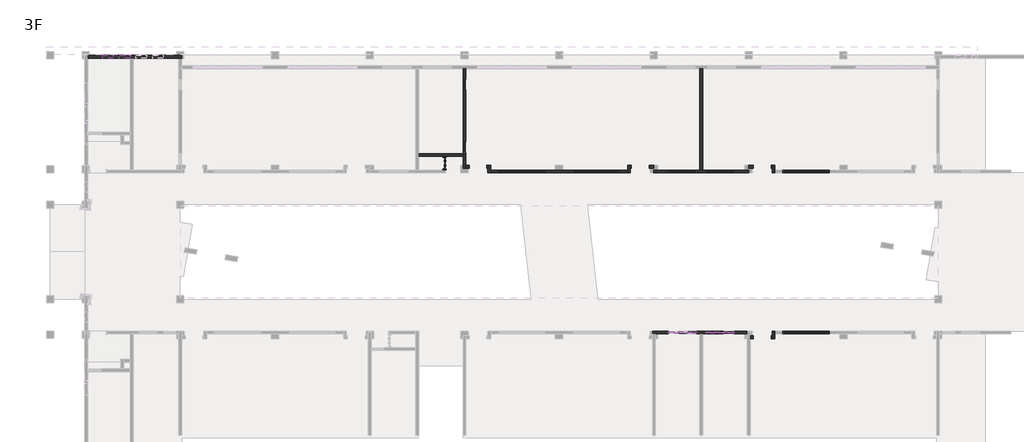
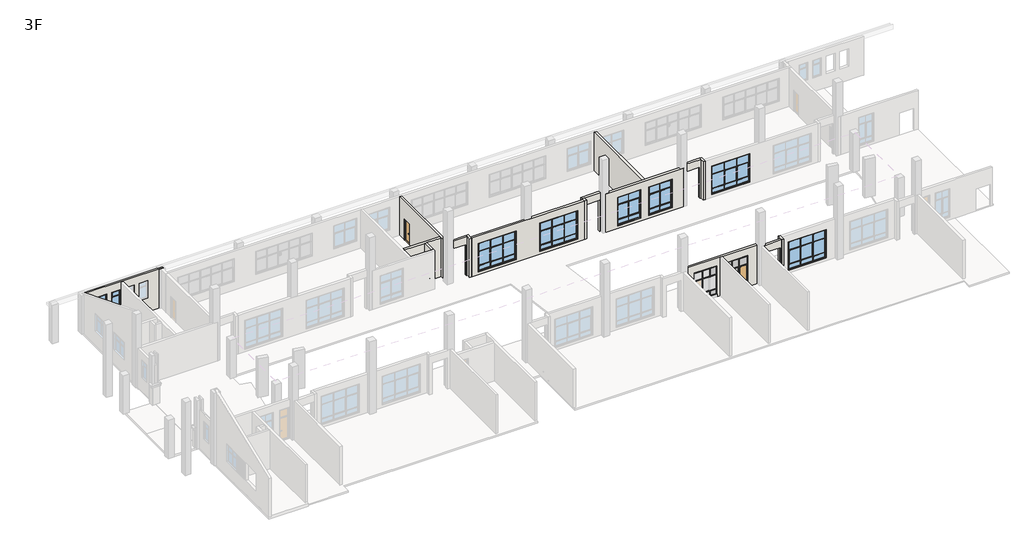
# One storey, part 4 of 9: 43 members, 16 walls, 9 plates, 8 windows, 4 doors.
"""IFC4 building model written with IfcOpenShell, lengths in millimetres."""

from ifc_helpers import new_model, si_unit, frame, origin, place, context, project, spatial, polyline, outline, extrude, faceted_brep, transform, mapped, element, save
from components import door_98f1c622, door_014e05d9, m4_m4_ba408c81, m4_m4_3ad702a5, member_bb6b3e5c, member_3251d295, member_9c26cac3, member_f9d68b3c, member_c7345f5c, member_ef2f5788, member_68d13e3f, member_a211941a, member_adcc9943, member_f478ca5a, member_964d2677, member_b8dbbb25, member_8a69f4a4, member_c89433b5, member_21953a3b, member_4507a15d, member_d4bc27cc, member_fbd0fd80, member_b6ae775c, plate_457c613e, plate_cc9028c0, plate_1c3dccf0, plate_5ac164bc, plate_3a849303, plate_0b4a2fd4, lc2_lc2_631be3da, lc5_lc5_223d64ff, lc5_lc5_9ec79463, lc8_lc8_f37dbe4c

model = new_model("IFC4")

# Units and contexts
model_context = context("Model", 3, world=origin())
ifc_project = project(units=[si_unit("LENGTHUNIT", "METRE", prefix="MILLI")], contexts=[model_context])

# Site, building, storey
site = spatial("IfcSite", under=ifc_project)
building = spatial("IfcBuilding", under=site)
storey = spatial("IfcBuildingStorey", under=building, Name="3F", Elevation=8400.0)

# Doors
placement = place(None, origin())
door_shape = door_98f1c622(model_context)
element("IfcDoor", 1, ObjectType="门嵌板_单开门2 : 门嵌板_单开门2", at=placement, inside=storey, context=model_context, shape_type="MappedRepresentation", body=[
    mapped(door_shape, transform((57300.0000032, 9800.304536, 8500.0), x_axis=(1.0, 0.0, 0.0), y_axis=(0.0, 1.0, 0.0), z_axis=(0.0, 0.0, 1.0))),
])
door_2_shape = door_014e05d9(model_context)
element("IfcDoor", 2, ObjectType="FM(丙）1 : FM(丙）1", at=placement, inside=storey, context=model_context, shape_type="MappedRepresentation", body=[
    mapped(door_2_shape, transform((33300.0000031, 24100.0, 8400.0), x_axis=(0.0, -1.0, 0.0), y_axis=(1.0, 0.0, 0.0), z_axis=(0.0, 0.0, 1.0))),
])
m4_m4_shape = m4_m4_ba408c81(model_context)
element("IfcDoor", 3, ObjectType="M4 : M4", at=placement, inside=storey, context=model_context, shape_type="MappedRepresentation", body=[
    mapped(m4_m4_shape, transform((35000.0, 30750.0, 8400.0), x_axis=(0.0, -1.0, 0.0), y_axis=(1.0, 0.0, 0.0), z_axis=(0.0, 0.0, 1.0))),
])
m4_m4_2_shape = m4_m4_3ad702a5(model_context)
element("IfcDoor", 4, ObjectType="M4 : M4", at=placement, inside=storey, context=model_context, shape_type="MappedRepresentation", body=[
    mapped(m4_m4_2_shape, transform((35000.0, 25449.6954656, 8400.0), x_axis=(0.0, 1.0, 0.0), y_axis=(-1.0, 0.0, 0.0), z_axis=(0.0, 0.0, 1.0))),
])

# Members
member_shape = member_bb6b3e5c(model_context)
element("IfcMember", 5, ObjectType="矩形竖梃 : 教学楼 – 矩形竖梃 – 100x150mm", at=placement, inside=storey, context=model_context, shape_type="MappedRepresentation", body=[
    mapped(member_shape, transform((54599.9999997, 9800.304536, 11800.0), x_axis=(0.0, 0.0, 1.0), y_axis=(0.0, -1.0, 0.0), z_axis=(1.0, 0.0, 0.0))),
])
member_2_shape = member_3251d295(model_context)
element("IfcMember", 6, ObjectType="矩形竖梃 : 教学楼 – 矩形竖梃 – 50x150mm", at=placement, inside=storey, context=model_context, shape_type="MappedRepresentation", body=[
    mapped(member_2_shape, transform((53124.9999993, 9800.304536, 8500.0), x_axis=(1.0, 0.0, 0.0), y_axis=(0.0, -1.0, 0.0), z_axis=(0.0, 0.0, -1.0))),
])
member_3_shape = member_9c26cac3(model_context)
element("IfcMember", 7, ObjectType="矩形竖梃 : 教学楼 – 矩形竖梃 – 50x150mm", at=placement, inside=storey, context=model_context, shape_type="MappedRepresentation", body=[
    mapped(member_3_shape, transform((53124.9999993, 9800.304536, 10825.0), x_axis=(0.0, 0.0, 1.0), y_axis=(0.0, -1.0, 0.0), z_axis=(1.0, 0.0, 0.0))),
])
member_4_shape = member_f9d68b3c(model_context)
element("IfcMember", 8, ObjectType="矩形竖梃 : 教学楼 – 矩形竖梃 – 50x150mm", at=placement, inside=storey, context=model_context, shape_type="MappedRepresentation", body=[
    mapped(member_4_shape, transform((53874.9999997, 9800.304536, 10825.0), x_axis=(0.0, 0.0, 1.0), y_axis=(0.0, -1.0, 0.0), z_axis=(1.0, 0.0, 0.0))),
])
member_5_shape = member_c7345f5c(model_context)
element("IfcMember", 9, ObjectType="矩形竖梃 : 教学楼 – 矩形竖梃 – 50x150mm", at=placement, inside=storey, context=model_context, shape_type="MappedRepresentation", body=[
    mapped(member_5_shape, transform((54499.9999997, 9800.304536, 10825.0), x_axis=(0.0, 0.0, 1.0), y_axis=(0.0, -1.0, 0.0), z_axis=(1.0, 0.0, 0.0))),
])
element("IfcMember", 10, ObjectType="矩形竖梃 : 教学楼 – 矩形竖梃 – 50x150mm", at=placement, inside=storey, context=model_context, shape_type="MappedRepresentation", body=[
    mapped(member_5_shape, transform((54499.9999997, 9800.304536, 9275.0), x_axis=(0.0, 0.0, 1.0), y_axis=(0.0, -1.0, 0.0), z_axis=(1.0, 0.0, 0.0))),
])
element("IfcMember", 11, ObjectType="矩形竖梃 : 教学楼 – 矩形竖梃 – 50x150mm", at=placement, inside=storey, context=model_context, shape_type="MappedRepresentation", body=[
    mapped(member_5_shape, transform((54499.9999997, 9800.304536, 8700.0), x_axis=(0.0, 0.0, 1.0), y_axis=(0.0, -1.0, 0.0), z_axis=(1.0, 0.0, 0.0))),
])
member_6_shape = member_ef2f5788(model_context)
element("IfcMember", 12, ObjectType="矩形竖梃 : 教学楼 – 矩形竖梃 – 50x150mm", at=placement, inside=storey, context=model_context, shape_type="MappedRepresentation", body=[
    mapped(member_6_shape, transform((53874.9999997, 9800.304536, 9275.0), x_axis=(0.0, 0.0, 1.0), y_axis=(0.0, -1.0, 0.0), z_axis=(1.0, 0.0, 0.0))),
])
member_7_shape = member_68d13e3f(model_context)
element("IfcMember", 13, ObjectType="矩形竖梃 : 教学楼 – 矩形竖梃 – 50x150mm", at=placement, inside=storey, context=model_context, shape_type="MappedRepresentation", body=[
    mapped(member_7_shape, transform((53874.9999997, 9800.304536, 8700.0), x_axis=(0.0, 0.0, 1.0), y_axis=(0.0, -1.0, 0.0), z_axis=(1.0, 0.0, 0.0))),
])
member_8_shape = member_a211941a(model_context)
element("IfcMember", 14, ObjectType="矩形竖梃 : 教学楼 – 矩形竖梃 – 100x150mm", at=placement, inside=storey, context=model_context, shape_type="MappedRepresentation", body=[
    mapped(member_8_shape, transform((53124.9999993, 9800.304536, 11800.0), x_axis=(0.0, 0.0, 1.0), y_axis=(0.0, -1.0, 0.0), z_axis=(1.0, 0.0, 0.0))),
])
member_9_shape = member_adcc9943(model_context)
element("IfcMember", 15, ObjectType="矩形竖梃 : 教学楼 – 矩形竖梃 – 100x150mm", at=placement, inside=storey, context=model_context, shape_type="MappedRepresentation", body=[
    mapped(member_9_shape, transform((53874.9999997, 9800.304536, 11800.0), x_axis=(0.0, 0.0, 1.0), y_axis=(0.0, -1.0, 0.0), z_axis=(1.0, 0.0, 0.0))),
])
member_10_shape = member_f478ca5a(model_context)
element("IfcMember", 16, ObjectType="矩形竖梃 : 教学楼 – 矩形竖梃 – 50x150mm", at=placement, inside=storey, context=model_context, shape_type="MappedRepresentation", body=[
    mapped(member_10_shape, transform((53124.9999993, 9800.304536, 10850.0), x_axis=(1.0, 0.0, 0.0), y_axis=(0.0, -1.0, 0.0), z_axis=(0.0, 0.0, -1.0))),
])
element("IfcMember", 17, ObjectType="矩形竖梃 : 教学楼 – 矩形竖梃 – 50x150mm", at=placement, inside=storey, context=model_context, shape_type="MappedRepresentation", body=[
    mapped(member_10_shape, transform((53874.9999997, 9800.304536, 10850.0), x_axis=(1.0, 0.0, 0.0), y_axis=(0.0, -1.0, 0.0), z_axis=(0.0, 0.0, -1.0))),
])
member_11_shape = member_964d2677(model_context)
element("IfcMember", 18, ObjectType="矩形竖梃 : 教学楼 – 矩形竖梃 – 50x150mm", at=placement, inside=storey, context=model_context, shape_type="MappedRepresentation", body=[
    mapped(member_11_shape, transform((53124.9999993, 9800.304536, 9300.0), x_axis=(1.0, 0.0, 0.0), y_axis=(0.0, -1.0, 0.0), z_axis=(0.0, 0.0, -1.0))),
])
member_12_shape = member_b8dbbb25(model_context)
element("IfcMember", 19, ObjectType="矩形竖梃 : 教学楼 – 矩形竖梃 – 50x150mm", at=placement, inside=storey, context=model_context, shape_type="MappedRepresentation", body=[
    mapped(member_12_shape, transform((53124.9999993, 9800.304536, 8700.0), x_axis=(1.0, 0.0, 0.0), y_axis=(0.0, -1.0, 0.0), z_axis=(0.0, 0.0, -1.0))),
])
member_13_shape = member_8a69f4a4(model_context)
element("IfcMember", 20, ObjectType="矩形竖梃 : 教学楼 – 矩形竖梃 – 50x150mm", at=placement, inside=storey, context=model_context, shape_type="MappedRepresentation", body=[
    mapped(member_13_shape, transform((53874.9999997, 9800.304536, 8725.0), x_axis=(1.0, 0.0, 0.0), y_axis=(0.0, -1.0, 0.0), z_axis=(0.0, 0.0, -1.0))),
])
member_14_shape = member_c89433b5(model_context)
element("IfcMember", 21, ObjectType="矩形竖梃 : 教学楼 – 矩形竖梃 – 100x150mm", at=placement, inside=storey, context=model_context, shape_type="MappedRepresentation", body=[
    mapped(member_14_shape, transform((54599.9999997, 9800.304536, 10825.0), x_axis=(1.0, 0.0, 0.0), y_axis=(0.0, -1.0, 0.0), z_axis=(0.0, 0.0, -1.0))),
])
member_15_shape = member_21953a3b(model_context)
element("IfcMember", 22, ObjectType="矩形竖梃 : 教学楼 – 矩形竖梃 – 100x150mm", at=placement, inside=storey, context=model_context, shape_type="MappedRepresentation", body=[
    mapped(member_15_shape, transform((54599.9999997, 9800.304536, 9275.0), x_axis=(1.0, 0.0, 0.0), y_axis=(0.0, -1.0, 0.0), z_axis=(0.0, 0.0, -1.0))),
])
member_16_shape = member_4507a15d(model_context)
element("IfcMember", 23, ObjectType="矩形竖梃 : 教学楼 – 矩形竖梃 – 100x150mm", at=placement, inside=storey, context=model_context, shape_type="MappedRepresentation", body=[
    mapped(member_16_shape, transform((54599.9999997, 9800.304536, 8675.0), x_axis=(1.0, 0.0, 0.0), y_axis=(0.0, -1.0, 0.0), z_axis=(0.0, 0.0, -1.0))),
])
element("IfcMember", 24, ObjectType="矩形竖梃 : 教学楼 – 矩形竖梃 – 100x150mm", at=placement, inside=storey, context=model_context, shape_type="MappedRepresentation", body=[
    mapped(member_shape, transform((55400.0000029, 9800.304536, 11800.0), x_axis=(0.0, 0.0, 1.0), y_axis=(0.0, 1.0, 0.0), z_axis=(-1.0, 0.0, 0.0))),
])
member_17_shape = member_d4bc27cc(model_context)
element("IfcMember", 25, ObjectType="矩形竖梃 : 教学楼 – 矩形竖梃 – 100x150mm", at=placement, inside=storey, context=model_context, shape_type="MappedRepresentation", body=[
    mapped(member_17_shape, transform((57800.0000032, 9800.304536, 8400.0), x_axis=(0.0, 0.0, -1.0), y_axis=(0.0, 1.0, 0.0), z_axis=(1.0, 0.0, 0.0))),
])
element("IfcMember", 26, ObjectType="矩形竖梃 : 教学楼 – 矩形竖梃 – 50x150mm", at=placement, inside=storey, context=model_context, shape_type="MappedRepresentation", body=[
    mapped(member_2_shape, transform((56875.0000032, 9800.304536, 8500.0), x_axis=(-1.0, 0.0, 0.0), y_axis=(0.0, 1.0, 0.0), z_axis=(0.0, 0.0, -1.0))),
])
element("IfcMember", 27, ObjectType="矩形竖梃 : 教学楼 – 矩形竖梃 – 50x150mm", at=placement, inside=storey, context=model_context, shape_type="MappedRepresentation", body=[
    mapped(member_3_shape, transform((56875.0000032, 9800.304536, 10825.0), x_axis=(0.0, 0.0, 1.0), y_axis=(0.0, 1.0, 0.0), z_axis=(-1.0, 0.0, 0.0))),
])
element("IfcMember", 28, ObjectType="矩形竖梃 : 教学楼 – 矩形竖梃 – 50x150mm", at=placement, inside=storey, context=model_context, shape_type="MappedRepresentation", body=[
    mapped(member_4_shape, transform((56125.0000029, 9800.304536, 10825.0), x_axis=(0.0, 0.0, 1.0), y_axis=(0.0, 1.0, 0.0), z_axis=(-1.0, 0.0, 0.0))),
])
element("IfcMember", 29, ObjectType="矩形竖梃 : 教学楼 – 矩形竖梃 – 50x150mm", at=placement, inside=storey, context=model_context, shape_type="MappedRepresentation", body=[
    mapped(member_5_shape, transform((55500.0000029, 9800.304536, 10825.0), x_axis=(0.0, 0.0, 1.0), y_axis=(0.0, 1.0, 0.0), z_axis=(-1.0, 0.0, 0.0))),
])
element("IfcMember", 30, ObjectType="矩形竖梃 : 教学楼 – 矩形竖梃 – 50x150mm", at=placement, inside=storey, context=model_context, shape_type="MappedRepresentation", body=[
    mapped(member_5_shape, transform((55500.0000029, 9800.304536, 9275.0), x_axis=(0.0, 0.0, 1.0), y_axis=(0.0, 1.0, 0.0), z_axis=(-1.0, 0.0, 0.0))),
])
element("IfcMember", 31, ObjectType="矩形竖梃 : 教学楼 – 矩形竖梃 – 50x150mm", at=placement, inside=storey, context=model_context, shape_type="MappedRepresentation", body=[
    mapped(member_5_shape, transform((55500.0000029, 9800.304536, 8700.0), x_axis=(0.0, 0.0, 1.0), y_axis=(0.0, 1.0, 0.0), z_axis=(-1.0, 0.0, 0.0))),
])
element("IfcMember", 32, ObjectType="矩形竖梃 : 教学楼 – 矩形竖梃 – 50x150mm", at=placement, inside=storey, context=model_context, shape_type="MappedRepresentation", body=[
    mapped(member_6_shape, transform((56125.0000029, 9800.304536, 9275.0), x_axis=(0.0, 0.0, 1.0), y_axis=(0.0, 1.0, 0.0), z_axis=(-1.0, 0.0, 0.0))),
])
element("IfcMember", 33, ObjectType="矩形竖梃 : 教学楼 – 矩形竖梃 – 50x150mm", at=placement, inside=storey, context=model_context, shape_type="MappedRepresentation", body=[
    mapped(member_7_shape, transform((56125.0000029, 9800.304536, 8700.0), x_axis=(0.0, 0.0, 1.0), y_axis=(0.0, 1.0, 0.0), z_axis=(-1.0, 0.0, 0.0))),
])
element("IfcMember", 34, ObjectType="矩形竖梃 : 教学楼 – 矩形竖梃 – 100x150mm", at=placement, inside=storey, context=model_context, shape_type="MappedRepresentation", body=[
    mapped(member_8_shape, transform((56875.0000032, 9800.304536, 11800.0), x_axis=(0.0, 0.0, 1.0), y_axis=(0.0, 1.0, 0.0), z_axis=(-1.0, 0.0, 0.0))),
])
element("IfcMember", 35, ObjectType="矩形竖梃 : 教学楼 – 矩形竖梃 – 100x150mm", at=placement, inside=storey, context=model_context, shape_type="MappedRepresentation", body=[
    mapped(member_9_shape, transform((56125.0000029, 9800.304536, 11800.0), x_axis=(0.0, 0.0, 1.0), y_axis=(0.0, 1.0, 0.0), z_axis=(-1.0, 0.0, 0.0))),
])
element("IfcMember", 36, ObjectType="矩形竖梃 : 教学楼 – 矩形竖梃 – 50x150mm", at=placement, inside=storey, context=model_context, shape_type="MappedRepresentation", body=[
    mapped(member_10_shape, transform((56875.0000032, 9800.304536, 10850.0), x_axis=(-1.0, 0.0, 0.0), y_axis=(0.0, 1.0, 0.0), z_axis=(0.0, 0.0, -1.0))),
])
element("IfcMember", 37, ObjectType="矩形竖梃 : 教学楼 – 矩形竖梃 – 50x150mm", at=placement, inside=storey, context=model_context, shape_type="MappedRepresentation", body=[
    mapped(member_10_shape, transform((56125.0000029, 9800.304536, 10850.0), x_axis=(-1.0, 0.0, 0.0), y_axis=(0.0, 1.0, 0.0), z_axis=(0.0, 0.0, -1.0))),
])
element("IfcMember", 38, ObjectType="矩形竖梃 : 教学楼 – 矩形竖梃 – 50x150mm", at=placement, inside=storey, context=model_context, shape_type="MappedRepresentation", body=[
    mapped(member_11_shape, transform((56875.0000032, 9800.304536, 9300.0), x_axis=(-1.0, 0.0, 0.0), y_axis=(0.0, 1.0, 0.0), z_axis=(0.0, 0.0, -1.0))),
])
element("IfcMember", 39, ObjectType="矩形竖梃 : 教学楼 – 矩形竖梃 – 50x150mm", at=placement, inside=storey, context=model_context, shape_type="MappedRepresentation", body=[
    mapped(member_12_shape, transform((56875.0000032, 9800.304536, 8700.0), x_axis=(-1.0, 0.0, 0.0), y_axis=(0.0, 1.0, 0.0), z_axis=(0.0, 0.0, -1.0))),
])
element("IfcMember", 40, ObjectType="矩形竖梃 : 教学楼 – 矩形竖梃 – 50x150mm", at=placement, inside=storey, context=model_context, shape_type="MappedRepresentation", body=[
    mapped(member_13_shape, transform((56125.0000029, 9800.304536, 8725.0), x_axis=(-1.0, 0.0, 0.0), y_axis=(0.0, 1.0, 0.0), z_axis=(0.0, 0.0, -1.0))),
])
element("IfcMember", 41, ObjectType="矩形竖梃 : 教学楼 – 矩形竖梃 – 100x150mm", at=placement, inside=storey, context=model_context, shape_type="MappedRepresentation", body=[
    mapped(member_14_shape, transform((57800.0000032, 9800.304536, 11700.0), x_axis=(1.0, 0.0, 0.0), y_axis=(0.0, 1.0, 0.0), z_axis=(0.0, 0.0, 1.0))),
])
element("IfcMember", 42, ObjectType="矩形竖梃 : 教学楼 – 矩形竖梃 – 100x150mm", at=placement, inside=storey, context=model_context, shape_type="MappedRepresentation", body=[
    mapped(member_14_shape, transform((55400.0000029, 9800.304536, 10825.0), x_axis=(-1.0, 0.0, 0.0), y_axis=(0.0, 1.0, 0.0), z_axis=(0.0, 0.0, -1.0))),
])
element("IfcMember", 43, ObjectType="矩形竖梃 : 教学楼 – 矩形竖梃 – 100x150mm", at=placement, inside=storey, context=model_context, shape_type="MappedRepresentation", body=[
    mapped(member_15_shape, transform((55400.0000029, 9800.304536, 9275.0), x_axis=(-1.0, 0.0, 0.0), y_axis=(0.0, 1.0, 0.0), z_axis=(0.0, 0.0, -1.0))),
])
element("IfcMember", 44, ObjectType="矩形竖梃 : 教学楼 – 矩形竖梃 – 100x150mm", at=placement, inside=storey, context=model_context, shape_type="MappedRepresentation", body=[
    mapped(member_16_shape, transform((55400.0000029, 9800.304536, 8675.0), x_axis=(-1.0, 0.0, 0.0), y_axis=(0.0, 1.0, 0.0), z_axis=(0.0, 0.0, -1.0))),
])
element("IfcMember", 45, ObjectType="矩形竖梃 : 教学楼 – 矩形竖梃 – 100x150mm", at=placement, inside=storey, context=model_context, shape_type="MappedRepresentation", body=[
    mapped(member_15_shape, transform((57800.0000032, 9800.304536, 10825.0), x_axis=(1.0, 0.0, 0.0), y_axis=(0.0, 1.0, 0.0), z_axis=(0.0, 0.0, 1.0))),
])
member_18_shape = member_fbd0fd80(model_context)
element("IfcMember", 46, ObjectType="矩形竖梃 : 教学楼 – 矩形竖梃 – 100x150mm", at=placement, inside=storey, context=model_context, shape_type="MappedRepresentation", body=[
    mapped(member_18_shape, transform((57800.0000032, 9800.304536, 9275.0), x_axis=(1.0, 0.0, 0.0), y_axis=(0.0, 1.0, 0.0), z_axis=(0.0, 0.0, 1.0))),
])
member_19_shape = member_b6ae775c(model_context)
element("IfcMember", 47, ObjectType="矩形竖梃 : 教学楼 – 矩形竖梃 – 100x150mm", at=placement, inside=storey, context=model_context, shape_type="MappedRepresentation", body=[
    mapped(member_19_shape, transform((57800.0000032, 9800.304536, 8700.0), x_axis=(1.0, 0.0, 0.0), y_axis=(0.0, 1.0, 0.0), z_axis=(0.0, 0.0, 1.0))),
])

# Plates
element("IfcPlate", 48, ObjectType="教学楼 – 涂料内墙 – 200mm", at=placement, inside=storey, context=model_context, shape_type="SweptSolid", body=[
    extrude(outline(polyline([(55400.0000029, 9917.304536), (56850.0000032, 9917.304536), (56850.0000032, 9683.304536), (55400.0000029, 9683.304536), (55400.0000029, 9917.304536)])), frame((0.0, 0.0, 8400.0), z_axis=(0.0, 0.0, 1.0), x_axis=(1.0, 0.0, 0.0)), (0.0, 0.0, 1.0), 275.0),
])
plate_shape = plate_457c613e(model_context)
element("IfcPlate", 49, ObjectType="系统嵌板 : 玻璃", at=placement, inside=storey, context=model_context, shape_type="MappedRepresentation", body=[
    mapped(plate_shape, transform((57300.0000032, 9800.304536, 10850.0), x_axis=(-1.0, 0.0, 0.0), y_axis=(0.0, -1.0, 0.0), z_axis=(0.0, 0.0, 1.0))),
])
plate_2_shape = plate_cc9028c0(model_context)
element("IfcPlate", 50, ObjectType="系统嵌板 : 玻璃", at=placement, inside=storey, context=model_context, shape_type="MappedRepresentation", body=[
    mapped(plate_2_shape, transform((56500.000003, 9800.304536, 10850.0), x_axis=(-1.0, 0.0, 0.0), y_axis=(0.0, -1.0, 0.0), z_axis=(0.0, 0.0, 1.0))),
])
plate_3_shape = plate_1c3dccf0(model_context)
element("IfcPlate", 51, ObjectType="系统嵌板 : 玻璃", at=placement, inside=storey, context=model_context, shape_type="MappedRepresentation", body=[
    mapped(plate_3_shape, transform((55800.0000029, 9800.304536, 10850.0), x_axis=(-1.0, 0.0, 0.0), y_axis=(0.0, -1.0, 0.0), z_axis=(0.0, 0.0, 1.0))),
])
plate_4_shape = plate_5ac164bc(model_context)
element("IfcPlate", 52, ObjectType="教学楼 - 窗嵌板：双扇推拉窗 : 教学楼 - 窗嵌板：双扇推拉窗", at=placement, inside=storey, context=model_context, shape_type="MappedRepresentation", body=[
    mapped(plate_4_shape, transform((56175.000003, 9800.304536, 9300.0), x_axis=(-1.0, 0.0, 0.0), y_axis=(0.0, -1.0, 0.0), z_axis=(0.0, 0.0, 1.0))),
])
plate_5_shape = plate_3a849303(model_context)
element("IfcPlate", 53, ObjectType="系统嵌板 : 玻璃", at=placement, inside=storey, context=model_context, shape_type="MappedRepresentation", body=[
    mapped(plate_5_shape, transform((56500.000003, 9800.304536, 8725.0), x_axis=(-1.0, 0.0, 0.0), y_axis=(0.0, -1.0, 0.0), z_axis=(0.0, 0.0, 1.0))),
])
plate_6_shape = plate_0b4a2fd4(model_context)
element("IfcPlate", 54, ObjectType="系统嵌板 : 玻璃", at=placement, inside=storey, context=model_context, shape_type="MappedRepresentation", body=[
    mapped(plate_6_shape, transform((55800.0000029, 9800.304536, 8725.0), x_axis=(-1.0, 0.0, 0.0), y_axis=(0.0, -1.0, 0.0), z_axis=(0.0, 0.0, 1.0))),
])
element("IfcPlate", 55, ObjectType="系统嵌板 : 玻璃", at=placement, inside=storey, context=model_context, shape_type="MappedRepresentation", body=[
    mapped(plate_3_shape, transform((54199.9999997, 9800.304536, 10850.0), x_axis=(1.0, 0.0, 0.0), y_axis=(0.0, 1.0, 0.0), z_axis=(0.0, 0.0, 1.0))),
])
element("IfcPlate", 56, ObjectType="系统嵌板 : 玻璃", at=placement, inside=storey, context=model_context, shape_type="MappedRepresentation", body=[
    mapped(plate_6_shape, transform((54199.9999997, 9800.304536, 8725.0), x_axis=(1.0, 0.0, 0.0), y_axis=(0.0, 1.0, 0.0), z_axis=(0.0, 0.0, 1.0))),
])

# Walls
element("IfcWall", 57, ObjectType="教学楼 – 饰面砖外墙 – 200mm", at=placement, inside=storey, context=model_context, shape_type="Brep", body=[
    faceted_brep([(3167.0000002, 32982.6954639, 8400.0), (3300.0, 32982.6954639, 8400.0), (6783.0000003, 32982.6954639, 8400.0), (7017.0000003, 32982.6954639, 8400.0), (10700.0, 32982.6954639, 8400.0), (10883.0, 32982.6954639, 8400.0), (11133.0, 32982.6954639, 8400.0), (11133.0, 32982.6954639, 12600.0), (11133.0, 32982.6954639, 12686.8728096), (3167.0000002, 32982.6954639, 12686.8728096), (3167.0000002, 32982.6954639, 12600.0), (8649.9999969, 32982.6954639, 9900.0), (8649.9999969, 32982.6954639, 11800.0), (9549.9999969, 32982.6954639, 11800.0), (9549.9999969, 32982.6954639, 9900.0), (7249.9999993, 32982.6954639, 9900.0), (7249.9999993, 32982.6954639, 11800.0), (8149.9999993, 32982.6954639, 11800.0), (8149.9999993, 32982.6954639, 9900.0), (5849.9999969, 32982.6954639, 9900.0), (5849.9999969, 32982.6954639, 11800.0), (6749.9999969, 32982.6954639, 11800.0), (6749.9999969, 32982.6954639, 9900.0), (4450.0000018, 32982.6954639, 9900.0), (4450.0000018, 32982.6954639, 11800.0), (5350.0000018, 32982.6954639, 11800.0), (5350.0000018, 32982.6954639, 9900.0), (3167.0000002, 33232.6954639, 8400.0), (3167.0000002, 33232.6954639, 12586.8799436), (3300.0, 33232.6954639, 12586.8799436), (10700.0, 33232.6954639, 12586.8799436), (11133.0, 33232.6954639, 12586.8799436), (11133.0, 33232.6954639, 8400.0), (10700.0, 33232.6954639, 8400.0), (3300.0, 33232.6954639, 8400.0), (8649.9999969, 33232.6954639, 9900.0), (9549.9999969, 33232.6954639, 9900.0), (9549.9999969, 33232.6954639, 11800.0), (8649.9999969, 33232.6954639, 11800.0), (7249.9999993, 33232.6954639, 9900.0), (8149.9999993, 33232.6954639, 9900.0), (8149.9999993, 33232.6954639, 11800.0), (7249.9999993, 33232.6954639, 11800.0), (5849.9999969, 33232.6954639, 9900.0), (6749.9999969, 33232.6954639, 9900.0), (6749.9999969, 33232.6954639, 11800.0), (5849.9999969, 33232.6954639, 11800.0), (4450.0000018, 33232.6954639, 9900.0), (5350.0000018, 33232.6954639, 9900.0), (5350.0000018, 33232.6954639, 11800.0), (4450.0000018, 33232.6954639, 11800.0), (11133.0, 33199.8929826, 12600.0)], [[[0, 1, 2, 3, 4, 5, 6, 7, 8, 9, 10], [11, 12, 13, 14], [15, 16, 17, 18], [19, 20, 21, 22], [23, 24, 25, 26]], [[27, 28, 29, 30, 31, 32, 33, 34], [35, 36, 37, 38], [39, 40, 41, 42], [43, 44, 45, 46], [47, 48, 49, 50]], [[6, 5, 4, 3, 2, 1, 0, 27, 34, 33, 32]], [[0, 10, 9, 28, 27]], [[8, 7, 6, 32, 31, 51]], [[12, 11, 35, 38]], [[13, 12, 38, 37]], [[14, 13, 37, 36]], [[11, 14, 36, 35]], [[16, 15, 39, 42]], [[17, 16, 42, 41]], [[18, 17, 41, 40]], [[15, 18, 40, 39]], [[20, 19, 43, 46]], [[21, 20, 46, 45]], [[22, 21, 45, 44]], [[19, 22, 44, 43]], [[24, 23, 47, 50]], [[25, 24, 50, 49]], [[26, 25, 49, 48]], [[23, 26, 48, 47]], [[9, 8, 51, 31, 30, 29, 28]]]),
])
element("IfcWall", 58, ObjectType="教学楼 – 涂料内墙 – 200mm", at=placement, inside=storey, context=model_context, shape_type="Brep", body=[
    faceted_brep([(34883.0, 23682.7231012, 12600.0), (34883.0, 23917.0, 12600.0), (34883.0, 24682.6954638, 12600.0), (34883.0, 24916.6954638, 12600.0), (34883.0, 32075.0, 12600.0), (34883.0, 32075.0, 8400.0), (34883.0, 31200.0, 8400.0), (34883.0, 31200.0, 10700.0), (34883.0, 30300.0, 10700.0), (34883.0, 30300.0, 8400.0), (34883.0, 25899.6954656, 8400.0), (34883.0, 25899.6954656, 10700.0), (34883.0, 24999.6954656, 10700.0), (34883.0, 24999.6954656, 8400.0), (34883.0, 24916.6954638, 8400.0), (34883.0, 24682.6954638, 8400.0), (34883.0, 23917.0, 8400.0), (34883.0, 23682.7231012, 8400.0), (35117.0, 32075.0, 12600.0), (35117.0, 23917.0, 12600.0), (35117.0, 23916.7231012, 12600.0), (35117.0, 23682.7231012, 12600.0), (35117.0, 23682.7231012, 8400.0), (35117.0, 23916.7231012, 8400.0), (35117.0, 23917.0, 8400.0), (35117.0, 24999.6954656, 8400.0), (35117.0, 24999.6954656, 10700.0), (35117.0, 25899.6954656, 10700.0), (35117.0, 25899.6954656, 8400.0), (35117.0, 30300.0, 8400.0), (35117.0, 30300.0, 10700.0), (35117.0, 31200.0, 10700.0), (35117.0, 31200.0, 8400.0), (35117.0, 32075.0, 8400.0)], [[[0, 1, 2, 3, 4, 5, 6, 7, 8, 9, 10, 11, 12, 13, 14, 15, 16, 17]], [[18, 19, 20, 21, 22, 23, 24, 25, 26, 27, 28, 29, 30, 31, 32, 33]], [[5, 33, 32, 6]], [[22, 17, 16, 15, 14, 13, 25, 24, 23]], [[9, 29, 28, 10]], [[4, 3, 2, 1, 0, 21, 20, 19, 18]], [[0, 17, 22, 21]], [[5, 4, 18, 33]], [[8, 30, 29, 9]], [[30, 8, 7, 31]], [[31, 7, 6, 32]], [[27, 11, 10, 28]], [[11, 27, 26, 12]], [[12, 26, 25, 13]]]),
])
element("IfcWall", 59, ObjectType="教学楼 – 涂料内墙 – 200mm", at=placement, inside=storey, context=model_context, shape_type="SweptSolid", body=[
    extrude(outline(polyline([(54883.0000001, 23516.6954639), (54883.0000001, 32075.0), (55117.0000001, 32075.0), (55117.0000001, 23516.6954639), (54883.0000001, 23516.6954639)])), frame((0.0, 0.0, 8400.0), z_axis=(0.0, 0.0, 1.0), x_axis=(1.0, 0.0, 0.0)), (0.0, 0.0, 1.0), 4200.0),
])
element("IfcWall", 60, ObjectType="教学楼 – 涂料内墙 – 200mm", at=placement, inside=storey, context=model_context, shape_type="Brep", body=[
    faceted_brep([(61216.9999995, 23282.6954638, 8400.0), (61216.9999995, 23516.6954638, 8400.0), (61216.9999995, 23916.7231012, 8400.0), (61216.9999995, 23916.7231012, 12600.0), (61216.9999995, 23516.6954638, 12600.0), (61216.9999995, 23282.6954638, 12600.0), (60982.9999995, 23282.6954638, 8400.0), (60982.9999995, 23282.6954638, 12600.0), (60982.9999995, 23682.7231012, 12600.0), (60982.9999995, 23916.7231012, 12600.0), (60982.9999995, 23916.7231012, 8400.0), (60982.9999995, 23682.7231012, 8400.0)], [[[0, 1, 2, 3, 4, 5]], [[6, 7, 8, 9, 10, 11]], [[2, 1, 0, 6, 11, 10]], [[5, 4, 3, 9, 8, 7]], [[3, 2, 10, 9]], [[0, 5, 7, 6]]]),
])
element("IfcWall", 61, ObjectType="教学楼 – 涂料内墙 – 200mm", at=placement, inside=storey, context=model_context, shape_type="Brep", body=[
    faceted_brep([(59000.0, 23916.7231012, 8400.0), (59000.0, 23916.7231012, 12600.0), (59317.0, 23916.7231012, 12600.0), (60982.9999995, 23916.7231012, 12600.0), (60982.9999995, 23916.7231012, 8400.0), (60900.0000009, 23916.7231012, 8400.0), (60900.0000009, 23916.7231012, 11800.0), (59400.0000009, 23916.7231012, 11800.0), (59400.0000009, 23916.7231012, 8400.0), (59317.0, 23916.7231012, 8400.0), (59000.0, 23682.7231012, 12600.0), (59000.0, 23682.7231012, 8400.0), (59317.0, 23682.7231012, 8400.0), (59400.0000009, 23682.7231012, 8400.0), (59400.0000009, 23682.7231012, 11800.0), (60900.0000009, 23682.7231012, 11800.0), (60900.0000009, 23682.7231012, 8400.0), (60982.9999995, 23682.7231012, 8400.0), (60982.9999995, 23682.7231012, 12600.0), (59317.0, 23682.7231012, 12600.0)], [[[0, 1, 2, 3, 4, 5, 6, 7, 8, 9]], [[10, 11, 12, 13, 14, 15, 16, 17, 18, 19]], [[4, 17, 16, 5]], [[11, 0, 9, 8, 13, 12]], [[1, 0, 11, 10]], [[3, 2, 1, 10, 19, 18]], [[4, 3, 18, 17]], [[7, 14, 13, 8]], [[14, 7, 6, 15]], [[15, 6, 5, 16]]]),
])
element("IfcWall", 62, ObjectType="教学楼 – 涂料内墙 – 200mm", at=placement, inside=storey, context=model_context, shape_type="Brep", body=[
    faceted_brep([(51000.0, 23282.6954639, 8400.0), (59000.0, 23282.6954639, 8400.0), (59000.0, 23282.6954639, 12600.0), (51000.0, 23282.6954639, 12600.0), (54600.0000001, 23282.6954639, 8700.0), (52200.0000001, 23282.6954639, 8700.0), (52200.0000001, 23282.6954639, 11800.0), (54600.0000001, 23282.6954639, 11800.0), (57800.0000001, 23282.6954639, 8700.0), (55400.0000001, 23282.6954639, 8700.0), (55400.0000001, 23282.6954639, 11800.0), (57800.0000001, 23282.6954639, 11800.0), (51000.0, 23516.6954639, 8400.0), (51000.0, 23516.6954639, 12600.0), (51317.0, 23516.6954639, 12600.0), (54883.0000001, 23516.6954639, 12600.0), (55117.0000001, 23516.6954639, 12600.0), (58683.0, 23516.6954639, 12600.0), (59000.0, 23516.6954639, 12600.0), (59000.0, 23516.6954639, 8400.0), (58683.0, 23516.6954639, 8400.0), (55117.0000001, 23516.6954639, 8400.0), (54883.0000001, 23516.6954639, 8400.0), (51317.0, 23516.6954639, 8400.0), (54600.0000001, 23516.6954639, 8700.0), (54600.0000001, 23516.6954639, 11800.0), (52200.0000001, 23516.6954639, 11800.0), (52200.0000001, 23516.6954639, 8700.0), (57800.0000001, 23516.6954639, 8700.0), (57800.0000001, 23516.6954639, 11800.0), (55400.0000001, 23516.6954639, 11800.0), (55400.0000001, 23516.6954639, 8700.0), (51000.0, 23283.0, 8400.0), (59000.0, 23283.0, 8400.0), (59000.0, 23283.0, 12600.0), (51000.0, 23283.0, 12600.0)], [[[0, 1, 2, 3], [4, 5, 6, 7], [8, 9, 10, 11]], [[12, 13, 14, 15, 16, 17, 18, 19, 20, 21, 22, 23], [24, 25, 26, 27], [28, 29, 30, 31]], [[1, 0, 32, 12, 23, 22, 21, 20, 19, 33]], [[2, 1, 33, 19, 18, 34]], [[3, 2, 34, 18, 17, 16, 15, 14, 13, 35]], [[0, 3, 35, 13, 12, 32]], [[25, 24, 4, 7]], [[26, 25, 7, 6]], [[27, 26, 6, 5]], [[24, 27, 5, 4]], [[29, 28, 8, 11]], [[30, 29, 11, 10]], [[31, 30, 10, 9]], [[28, 31, 9, 8]]]),
])
element("IfcWall", 63, ObjectType="教学楼 – 涂料内墙 – 200mm", at=placement, inside=storey, context=model_context, shape_type="Brep", body=[
    faceted_brep([(48783.0000007, 23916.7231007, 12600.0), (50683.0, 23916.7231007, 12600.0), (51000.0, 23916.7231007, 12600.0), (51000.0, 23916.7231007, 8400.0), (50683.0, 23916.7231007, 8400.0), (50599.9999991, 23916.7231007, 8400.0), (50599.9999991, 23916.7231007, 11800.0), (49099.9999991, 23916.7231007, 11800.0), (49099.9999991, 23916.7231007, 8400.0), (48783.0000007, 23916.7231007, 8400.0), (51000.0, 23682.7231007, 12600.0), (50683.0, 23682.7231007, 12600.0), (49017.0000007, 23682.7231007, 12600.0), (48783.0000007, 23682.7231007, 12600.0), (48783.0000007, 23682.7231007, 8400.0), (49017.0000007, 23682.7231007, 8400.0), (49099.9999991, 23682.7231007, 8400.0), (49099.9999991, 23682.7231007, 11800.0), (50599.9999991, 23682.7231007, 11800.0), (50599.9999991, 23682.7231007, 8400.0), (50683.0, 23682.7231007, 8400.0), (51000.0, 23682.7231007, 8400.0)], [[[0, 1, 2, 3, 4, 5, 6, 7, 8, 9]], [[10, 11, 12, 13, 14, 15, 16, 17, 18, 19, 20, 21]], [[14, 9, 8, 16, 15]], [[3, 21, 20, 19, 5, 4]], [[2, 1, 0, 13, 12, 11, 10]], [[3, 2, 10, 21]], [[0, 9, 14, 13]], [[7, 17, 16, 8]], [[17, 7, 6, 18]], [[18, 6, 5, 19]]]),
])
element("IfcWall", 64, ObjectType="教学楼 – 涂料内墙 – 200mm", at=placement, inside=storey, context=model_context, shape_type="Brep", body=[
    faceted_brep([(48783.0000007, 23682.7231007, 8400.0), (48783.0000007, 23516.695464, 8400.0), (48783.0000007, 23282.695464, 8400.0), (48783.0000007, 23282.695464, 12600.0), (48783.0000007, 23516.695464, 12600.0), (48783.0000007, 23682.7231007, 12600.0), (49017.0000007, 23682.7231007, 8400.0), (49017.0000007, 23682.7231007, 12600.0), (49017.0000007, 23282.695464, 12600.0), (49017.0000007, 23282.695464, 8400.0)], [[[0, 1, 2, 3, 4, 5]], [[6, 7, 8, 9]], [[2, 1, 0, 6, 9]], [[5, 4, 3, 8, 7]], [[0, 5, 7, 6]], [[3, 2, 9, 8]]]),
])
element("IfcWall", 65, ObjectType="教学楼 – 涂料内墙 – 200mm", at=placement, inside=storey, context=model_context, shape_type="Brep", body=[
    faceted_brep([(48783.0000007, 23516.695464, 8400.0), (43317.0, 23516.695464, 8400.0), (42683.0, 23516.695464, 8400.0), (37216.999999, 23516.695464, 8400.0), (37216.999999, 23516.695464, 12600.0), (42683.0, 23516.695464, 12600.0), (43317.0, 23516.695464, 12600.0), (48783.0000007, 23516.695464, 12600.0), (44209.9999984, 23516.695464, 8700.0), (48109.9999984, 23516.695464, 8700.0), (48109.9999984, 23516.695464, 11800.0), (44209.9999984, 23516.695464, 11800.0), (37900.0, 23516.695464, 8700.0), (41800.0, 23516.695464, 8700.0), (41800.0, 23516.695464, 11800.0), (37900.0, 23516.695464, 11800.0), (48783.0000007, 23282.695464, 8400.0), (48783.0000007, 23282.695464, 12600.0), (37216.999999, 23282.695464, 12600.0), (37216.999999, 23282.695464, 8400.0), (44209.9999984, 23282.695464, 8700.0), (44209.9999984, 23282.695464, 11800.0), (48109.9999984, 23282.695464, 11800.0), (48109.9999984, 23282.695464, 8700.0), (37900.0, 23282.695464, 8700.0), (37900.0, 23282.695464, 11800.0), (41800.0, 23282.695464, 11800.0), (41800.0, 23282.695464, 8700.0)], [[[0, 1, 2, 3, 4, 5, 6, 7], [8, 9, 10, 11], [12, 13, 14, 15]], [[16, 17, 18, 19], [20, 21, 22, 23], [24, 25, 26, 27]], [[3, 2, 1, 0, 16, 19]], [[7, 6, 5, 4, 18, 17]], [[0, 7, 17, 16]], [[4, 3, 19, 18]], [[21, 20, 8, 11]], [[22, 21, 11, 10]], [[23, 22, 10, 9]], [[20, 23, 9, 8]], [[25, 24, 12, 15]], [[26, 25, 15, 14]], [[27, 26, 14, 13]], [[24, 27, 13, 12]]]),
])
element("IfcWall", 66, ObjectType="教学楼 – 涂料内墙 – 200mm", at=placement, inside=storey, context=model_context, shape_type="Brep", body=[
    faceted_brep([(37216.999999, 23282.695464, 8400.0), (37216.999999, 23516.695464, 8400.0), (37216.999999, 23916.7231012, 8400.0), (37216.999999, 23916.7231012, 12600.0), (37216.999999, 23516.695464, 12600.0), (37216.999999, 23282.695464, 12600.0), (36982.999999, 23282.695464, 8400.0), (36982.999999, 23282.695464, 12600.0), (36982.999999, 23682.7231012, 12600.0), (36982.999999, 23916.7231012, 12600.0), (36982.999999, 23916.7231012, 8400.0), (36982.999999, 23682.7231012, 8400.0)], [[[0, 1, 2, 3, 4, 5]], [[6, 7, 8, 9, 10, 11]], [[2, 1, 0, 6, 11, 10]], [[5, 4, 3, 9, 8, 7]], [[3, 2, 10, 9]], [[0, 5, 7, 6]]]),
])
element("IfcWall", 67, ObjectType="教学楼 – 涂料内墙 – 200mm", at=placement, inside=storey, context=model_context, shape_type="Brep", body=[
    faceted_brep([(35117.0, 23916.7231012, 12600.0), (35317.0, 23916.7231012, 12600.0), (36982.999999, 23916.7231012, 12600.0), (36982.999999, 23916.7231012, 8400.0), (36900.0000009, 23916.7231012, 8400.0), (36900.0000009, 23916.7231012, 11800.0), (35400.0000009, 23916.7231012, 11800.0), (35400.0000009, 23916.7231012, 8400.0), (35317.0, 23916.7231012, 8400.0), (35117.0, 23916.7231012, 8400.0), (36982.999999, 23682.7231012, 12600.0), (35317.0, 23682.7231012, 12600.0), (35117.0, 23682.7231012, 12600.0), (35117.0, 23682.7231012, 8400.0), (35317.0, 23682.7231012, 8400.0), (35400.0000009, 23682.7231012, 8400.0), (35400.0000009, 23682.7231012, 11800.0), (36900.0000009, 23682.7231012, 11800.0), (36900.0000009, 23682.7231012, 8400.0), (36982.999999, 23682.7231012, 8400.0)], [[[0, 1, 2, 3, 4, 5, 6, 7, 8, 9]], [[10, 11, 12, 13, 14, 15, 16, 17, 18, 19]], [[3, 19, 18, 4]], [[13, 9, 8, 7, 15, 14]], [[2, 1, 0, 12, 11, 10]], [[3, 2, 10, 19]], [[0, 9, 13, 12]], [[6, 16, 15, 7]], [[16, 6, 5, 17]], [[17, 5, 4, 18]]]),
])
element("IfcWall", 68, ObjectType="教学楼 – 涂料内墙 – 200mm", at=placement, inside=storey, context=model_context, shape_type="Brep", body=[
    faceted_brep([(34883.0, 24916.6954638, 8400.0), (31117.0000029, 24916.6954638, 8400.0), (31117.0000029, 24916.6954638, 12600.0), (34883.0, 24916.6954638, 12600.0), (34883.0, 24682.6954638, 8400.0), (34883.0, 24682.6954638, 12600.0), (33417.0000031, 24682.6954638, 12600.0), (33183.0000031, 24682.6954638, 12600.0), (31117.0000029, 24682.6954638, 12600.0), (31117.0000029, 24682.6954638, 8400.0), (33183.0000031, 24682.6954638, 8400.0), (33417.0000031, 24682.6954638, 8400.0)], [[[0, 1, 2, 3]], [[4, 5, 6, 7, 8, 9, 10, 11]], [[1, 0, 4, 11, 10, 9]], [[3, 2, 8, 7, 6, 5]], [[2, 1, 9, 8]], [[0, 3, 5, 4]]]),
])
element("IfcWall", 69, ObjectType="教学楼 – 涂料内墙 – 200mm", at=placement, inside=storey, context=model_context, shape_type="SweptSolid", body=[
    extrude(outline(polyline([(23516.6954638, 12600.0), (24682.6954638, 12600.0), (24682.6954638, 8400.0), (24600.0, 8400.0), (24600.0, 10500.0), (23600.0, 10500.0), (23600.0, 8400.0), (23516.6954638, 8400.0), (23516.6954638, 12600.0)])), frame((33183.0000031, 0.0, 0.0), z_axis=(1.0, 0.0, 0.0), x_axis=(0.0, 1.0, 0.0)), (0.0, 0.0, 1.0), 234.0),
])
element("IfcWall", 70, ObjectType="教学楼 – 涂料内墙 – 200mm", at=placement, inside=storey, context=model_context, shape_type="Brep", body=[
    faceted_brep([(60982.999998, 9917.3045361, 8400.0), (60982.999998, 9516.6678267, 8400.0), (60982.999998, 9282.6678267, 8400.0), (60982.999998, 9282.6678267, 12600.0), (60982.999998, 9516.6678267, 12600.0), (60982.999998, 9917.3045361, 12600.0), (61216.999998, 9917.3045361, 8400.0), (61216.999998, 9917.3045361, 12600.0), (61216.999998, 9683.3045361, 12600.0), (61216.999998, 9282.6678267, 12600.0), (61216.999998, 9282.6678267, 8400.0), (61216.999998, 9683.3045361, 8400.0)], [[[0, 1, 2, 3, 4, 5]], [[6, 7, 8, 9, 10, 11]], [[2, 1, 0, 6, 11, 10]], [[5, 4, 3, 9, 8, 7]], [[3, 2, 10, 9]], [[0, 5, 7, 6]]]),
])
element("IfcWall", 71, ObjectType="教学楼 – 涂料内墙 – 200mm", at=placement, inside=storey, context=model_context, shape_type="Brep", body=[
    faceted_brep([(59117.0, 9516.6678267, 12600.0), (59317.0, 9516.6678267, 12600.0), (60982.999998, 9516.6678267, 12600.0), (60982.999998, 9516.6678267, 8400.0), (60899.999998, 9516.6678267, 8400.0), (60899.999998, 9516.6678267, 11800.0), (59399.999998, 9516.6678267, 11800.0), (59399.999998, 9516.6678267, 8400.0), (59317.0, 9516.6678267, 8400.0), (59117.0, 9516.6678267, 8400.0), (60982.999998, 9282.6678267, 12600.0), (59117.0, 9282.6678267, 12600.0), (59117.0, 9282.6678267, 8400.0), (59399.999998, 9282.6678267, 8400.0), (59399.999998, 9282.6678267, 11800.0), (60899.999998, 9282.6678267, 11800.0), (60899.999998, 9282.6678267, 8400.0), (60982.999998, 9282.6678267, 8400.0)], [[[0, 1, 2, 3, 4, 5, 6, 7, 8, 9]], [[10, 11, 12, 13, 14, 15, 16, 17]], [[3, 17, 16, 4]], [[12, 9, 8, 7, 13]], [[2, 1, 0, 11, 10]], [[3, 2, 10, 17]], [[0, 9, 12, 11]], [[15, 5, 4, 16]], [[5, 15, 14, 6]], [[6, 14, 13, 7]]]),
])
element("IfcWall", 72, ObjectType="教学楼 – 涂料内墙 – 200mm", at=placement, inside=storey, context=model_context, shape_type="Brep", body=[
    faceted_brep([(58883.0, 9683.304536, 12600.0), (58683.0, 9683.304536, 12600.0), (55116.9999999, 9683.304536, 12600.0), (54882.9999999, 9683.304536, 12600.0), (51317.0, 9683.304536, 12600.0), (51117.0, 9683.304536, 12600.0), (50883.0, 9683.304536, 12600.0), (50883.0, 9683.304536, 8400.0), (51117.0, 9683.304536, 8400.0), (51317.0, 9683.304536, 8400.0), (52199.9999993, 9683.304536, 8400.0), (52199.9999993, 9683.304536, 11800.0), (54599.9999997, 9683.304536, 11800.0), (54599.9999997, 9683.304536, 8400.0), (54882.9999999, 9683.304536, 8400.0), (55116.9999999, 9683.304536, 8400.0), (55400.0000029, 9683.304536, 8400.0), (55400.0000029, 9683.304536, 11800.0), (57800.0000032, 9683.304536, 11800.0), (57800.0000032, 9683.304536, 8400.0), (58683.0, 9683.304536, 8400.0), (58883.0, 9683.304536, 8400.0), (50883.0, 9917.304536, 12600.0), (58883.0, 9917.304536, 12600.0), (58883.0, 9917.304536, 8400.0), (57800.0000032, 9917.304536, 8400.0), (57800.0000032, 9917.304536, 11800.0), (55400.0000029, 9917.304536, 11800.0), (55400.0000029, 9917.304536, 8400.0), (54599.9999997, 9917.304536, 8400.0), (54599.9999997, 9917.304536, 11800.0), (52199.9999993, 9917.304536, 11800.0), (52199.9999993, 9917.304536, 8400.0), (50883.0, 9917.304536, 8400.0), (50883.0, 9917.0, 8400.0), (50883.0, 9917.0, 12600.0)], [[[0, 1, 2, 3, 4, 5, 6, 7, 8, 9, 10, 11, 12, 13, 14, 15, 16, 17, 18, 19, 20, 21]], [[22, 23, 24, 25, 26, 27, 28, 29, 30, 31, 32, 33]], [[28, 16, 15, 14, 13, 29]], [[21, 20, 19, 25, 24]], [[7, 34, 33, 32, 10, 9, 8]], [[6, 5, 4, 3, 2, 1, 0, 23, 22, 35]], [[18, 26, 25, 19]], [[26, 18, 17, 27]], [[27, 17, 16, 28]], [[31, 11, 10, 32]], [[11, 31, 30, 12]], [[12, 30, 29, 13]], [[0, 21, 24, 23]], [[7, 6, 35, 22, 33, 34]]]),
])

# Windows
lc2_lc2_shape = lc2_lc2_631be3da(model_context)
element("IfcWindow", 73, ObjectType="LC2 : LC2", at=placement, inside=storey, context=model_context, shape_type="MappedRepresentation", body=[
    mapped(lc2_lc2_shape, transform((4900.0000018, 33107.6954639, 8400.0), x_axis=(-1.0, 0.0, 0.0), y_axis=(0.0, -1.0, 0.0), z_axis=(0.0, 0.0, 1.0))),
])
element("IfcWindow", 74, ObjectType="LC2 : LC2", at=placement, inside=storey, context=model_context, shape_type="MappedRepresentation", body=[
    mapped(lc2_lc2_shape, transform((6299.9999969, 33107.6954639, 8400.0), x_axis=(-1.0, 0.0, 0.0), y_axis=(0.0, -1.0, 0.0), z_axis=(0.0, 0.0, 1.0))),
])
lc5_lc5_shape = lc5_lc5_223d64ff(model_context)
element("IfcWindow", 75, ObjectType="LC5 : LC5", at=placement, inside=storey, context=model_context, shape_type="MappedRepresentation", body=[
    mapped(lc5_lc5_shape, transform((39850.0, 23399.695464, 8400.0), x_axis=(1.0, 0.0, 0.0), y_axis=(0.0, 1.0, 0.0), z_axis=(0.0, 0.0, 1.0))),
])
element("IfcWindow", 76, ObjectType="LC5 : LC5", at=placement, inside=storey, context=model_context, shape_type="MappedRepresentation", body=[
    mapped(lc5_lc5_shape, transform((46159.9999984, 23399.695464, 8400.0), x_axis=(1.0, 0.0, 0.0), y_axis=(0.0, 1.0, 0.0), z_axis=(0.0, 0.0, 1.0))),
])
lc5_lc5_2_shape = lc5_lc5_9ec79463(model_context)
element("IfcWindow", 77, ObjectType="LC5 : LC5", at=placement, inside=storey, context=model_context, shape_type="MappedRepresentation", body=[
    mapped(lc5_lc5_2_shape, transform((63849.9999993, 9800.3045361, 8400.0), x_axis=(1.0, 0.0, 0.0), y_axis=(0.0, 1.0, 0.0), z_axis=(0.0, 0.0, 1.0))),
])
element("IfcWindow", 78, ObjectType="LC5 : LC5", at=placement, inside=storey, context=model_context, shape_type="MappedRepresentation", body=[
    mapped(lc5_lc5_2_shape, transform((63850.0000018, 23399.6954638, 8400.0), x_axis=(-1.0, 0.0, 0.0), y_axis=(0.0, -1.0, 0.0), z_axis=(0.0, 0.0, 1.0))),
])
lc8_lc8_shape = lc8_lc8_f37dbe4c(model_context)
element("IfcWindow", 79, ObjectType="LC8 : LC8", at=placement, inside=storey, context=model_context, shape_type="MappedRepresentation", body=[
    mapped(lc8_lc8_shape, transform((53400.0000001, 23399.6954639, 8400.0), x_axis=(-1.0, 0.0, 0.0), y_axis=(0.0, -1.0, 0.0), z_axis=(0.0, 0.0, 1.0))),
])
element("IfcWindow", 80, ObjectType="LC8 : LC8", at=placement, inside=storey, context=model_context, shape_type="MappedRepresentation", body=[
    mapped(lc8_lc8_shape, transform((56600.0000001, 23399.6954639, 8400.0), x_axis=(-1.0, 0.0, 0.0), y_axis=(0.0, -1.0, 0.0), z_axis=(0.0, 0.0, 1.0))),
])

save(model, "model.ifc")
